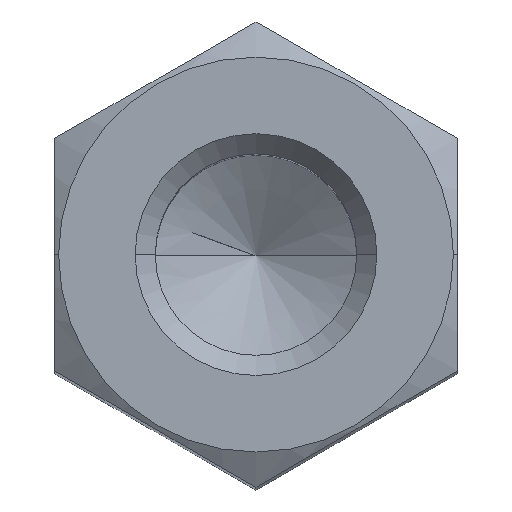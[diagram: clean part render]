
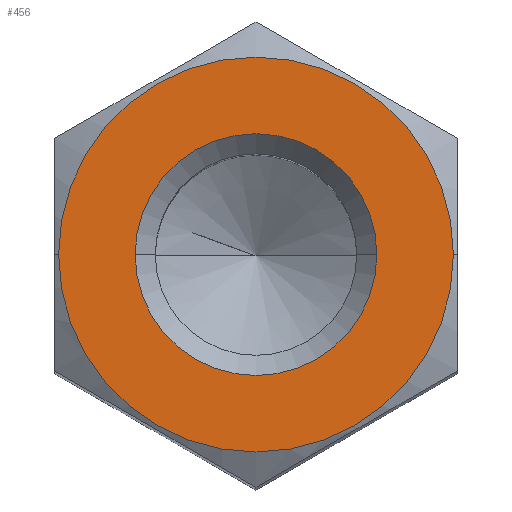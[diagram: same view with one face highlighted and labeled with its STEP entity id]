
A CAD part, top view. The second image highlights one B-rep face of the part: STEP entity #456.
In plain terms, the highlighted planar face has unit normal (0, 0, 1).
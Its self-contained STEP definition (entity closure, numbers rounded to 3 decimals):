
#4 = DIRECTION ( 'NONE',  ( 0., 0., 1. ) ) ;
#34 = CARTESIAN_POINT ( 'NONE',  ( -3., 0., 0. ) ) ;
#37 = CARTESIAN_POINT ( 'NONE',  ( 3., 0., 0. ) ) ;
#52 = CIRCLE ( 'NONE', #636, 4.9 ) ;
#120 = VERTEX_POINT ( 'NONE', #380 ) ;
#131 = ORIENTED_EDGE ( 'NONE', *, *, #620, .T. ) ;
#148 = DIRECTION ( 'NONE',  ( 1., 0., 0. ) ) ;
#153 = DIRECTION ( 'NONE',  ( 0., 0., -1. ) ) ;
#169 = CIRCLE ( 'NONE', #748, 3. ) ;
#171 = CIRCLE ( 'NONE', #678, 3. ) ;
#180 = AXIS2_PLACEMENT_3D ( 'NONE', #454, #816, #596 ) ;
#212 = FACE_BOUND ( 'NONE', #520, .T. ) ;
#214 = FACE_OUTER_BOUND ( 'NONE', #525, .T. ) ;
#221 = CIRCLE ( 'NONE', #831, 4.9 ) ;
#357 = VERTEX_POINT ( 'NONE', #37 ) ;
#380 = CARTESIAN_POINT ( 'NONE',  ( -4.9, 0., 0. ) ) ;
#435 = ORIENTED_EDGE ( 'NONE', *, *, #653, .T. ) ;
#439 = EDGE_CURVE ( 'NONE', #120, #661, #221, .T. ) ;
#454 = CARTESIAN_POINT ( 'NONE',  ( 0., 0., 0. ) ) ;
#456 = ADVANCED_FACE ( 'NONE', ( #212, #214 ), #711, .T. ) ;
#463 = ORIENTED_EDGE ( 'NONE', *, *, #752, .T. ) ;
#472 = VERTEX_POINT ( 'NONE', #34 ) ;
#520 = EDGE_LOOP ( 'NONE', ( #435, #131 ) ) ;
#525 = EDGE_LOOP ( 'NONE', ( #533, #463 ) ) ;
#533 = ORIENTED_EDGE ( 'NONE', *, *, #439, .T. ) ;
#565 = CARTESIAN_POINT ( 'NONE',  ( 0., 0., 0. ) ) ;
#595 = DIRECTION ( 'NONE',  ( 1., 0., 0. ) ) ;
#596 = DIRECTION ( 'NONE',  ( 1., 0., 0. ) ) ;
#601 = DIRECTION ( 'NONE',  ( 0., 0., 1. ) ) ;
#603 = CARTESIAN_POINT ( 'NONE',  ( 0., 0., 0. ) ) ;
#617 = CARTESIAN_POINT ( 'NONE',  ( 0., 0., 0. ) ) ;
#620 = EDGE_CURVE ( 'NONE', #472, #357, #171, .T. ) ;
#624 = DIRECTION ( 'NONE',  ( 1., 0., 0. ) ) ;
#636 = AXIS2_PLACEMENT_3D ( 'NONE', #603, #601, #595 ) ;
#653 = EDGE_CURVE ( 'NONE', #357, #472, #169, .T. ) ;
#661 = VERTEX_POINT ( 'NONE', #846 ) ;
#678 = AXIS2_PLACEMENT_3D ( 'NONE', #617, #153, #148 ) ;
#711 = PLANE ( 'NONE',  #180 ) ;
#748 = AXIS2_PLACEMENT_3D ( 'NONE', #809, #807, #806 ) ;
#752 = EDGE_CURVE ( 'NONE', #661, #120, #52, .T. ) ;
#806 = DIRECTION ( 'NONE',  ( 1., 0., 0. ) ) ;
#807 = DIRECTION ( 'NONE',  ( 0., 0., -1. ) ) ;
#809 = CARTESIAN_POINT ( 'NONE',  ( 0., 0., 0. ) ) ;
#816 = DIRECTION ( 'NONE',  ( 0., 0., 1. ) ) ;
#831 = AXIS2_PLACEMENT_3D ( 'NONE', #565, #4, #624 ) ;
#846 = CARTESIAN_POINT ( 'NONE',  ( 4.9, 0., 0. ) ) ;
